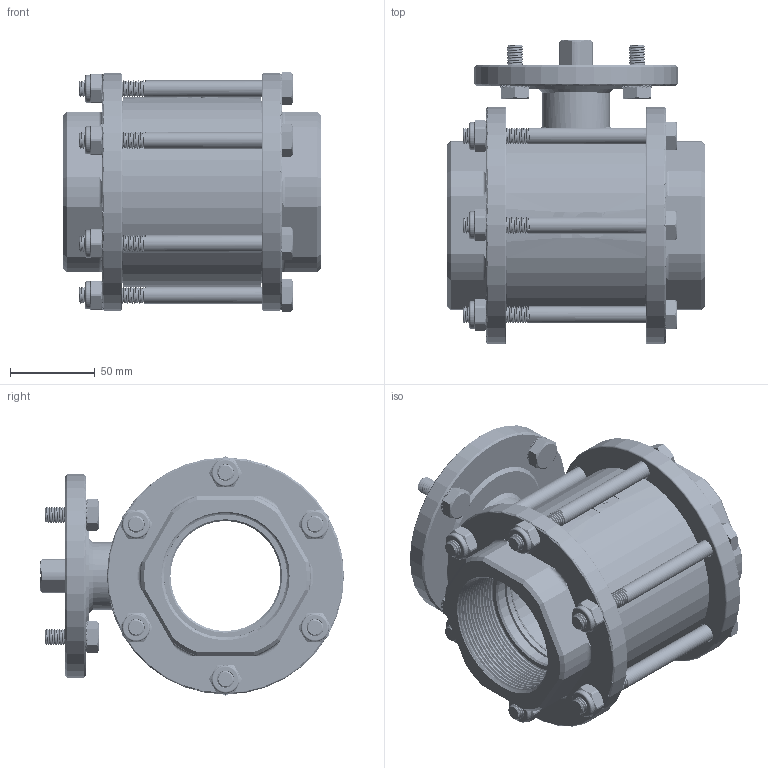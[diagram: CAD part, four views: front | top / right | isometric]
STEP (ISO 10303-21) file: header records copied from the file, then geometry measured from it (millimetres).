
FILE_DESCRIPTION((''),'2;1');
FILE_NAME('5030016441F_SW0001','2024-12-16T11:05:27',('tecnico2'),('CDM Tecnoconsulting'),'CREO PARAMETRIC BY PTC INC, 2024063','CREO PARAMETRIC BY PTC INC, 2024063','');
FILE_SCHEMA(('CONFIG_CONTROL_DESIGN','SHAPE_APPEARANCE_LAYERS_GROUPS'));
Products named in the file (1): 5030016441F_SW0001
Bounding box: 152.2 x 179.5 x 141.63 mm (x, y, z)
Volume: 1062041.9 mm3; surface area: 275506.4 mm2
Topology: 1 solids, 1 shells, 2304 faces, 6417 edges, 4136 vertices
Faces by surface type: cylinder 876, plane 690, bspline 317, cone 305, extrusion 56, torus 56, sphere 4
Entity records: 256757 total; most frequent: CARTESIAN_POINT 183407, ORIENTED_EDGE 12818, DIRECTION 8811, PRESENTATION_STYLE_ASSIGNMENT 6464, STYLED_ITEM 6410, CURVE_STYLE 6409, EDGE_CURVE 6409, VERTEX_POINT 4136
